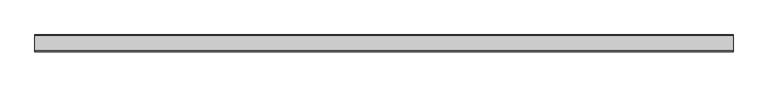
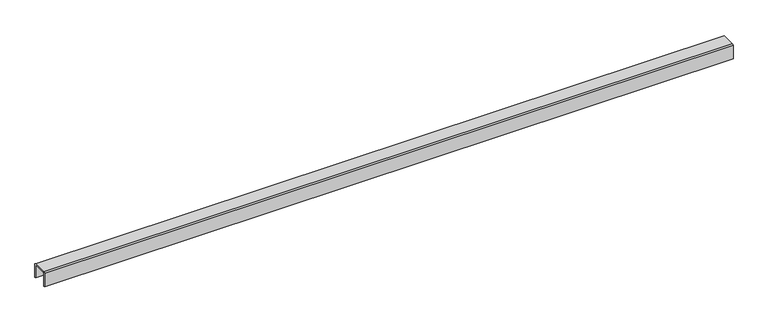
"""IFC4 building model written with IfcOpenShell, lengths in millimetres: proxy geometry, Beared-Hanger : BearedHanger."""

import ifcopenshell
import ifcopenshell.guid

model = None  # the IFC model being written
_history = None  # IfcOwnerHistory: only IFC2X3 demands one
_inside = {}  # id of a spatial element -> (the spatial element, [elements in it])
_under = {}  # id of a project, library or spatial element -> (it, [spatial elements below it])
_declared = {}  # id of a project -> (the project, [libraries it declares])
_typed = {}  # id of a type object -> (the type object, [elements of that type])
_made_of = {}  # id of a material, layer set ... -> (it, [elements and type objects made of it])


def new_model(schema):
    """Start an empty IFC model of exactly this schema.

    Asked for "IFC4X3", IfcOpenShell would pick the latest addendum, in which some entities
    have other attributes; the version numbers below select the first issue.
    IFC2X3 requires an IfcOwnerHistory on every rooted entity: one is made here for all.
    """
    global model, _history
    if schema == "IFC4X3":
        model = ifcopenshell.file(schema_version=(4, 3, 0, 0))
    else:
        model = ifcopenshell.file(schema=schema)
    _inside.clear()
    _under.clear()
    _declared.clear()
    _typed.clear()
    _made_of.clear()
    _history = None
    if model.schema == "IFC2X3":
        org = make("IfcOrganization", Name="unknown")
        user = make(
            "IfcPersonAndOrganization",
            ThePerson=make("IfcPerson", FamilyName="unknown"),
            TheOrganization=org,
        )
        app = make(
            "IfcApplication",
            ApplicationDeveloper=org,
            Version="unknown",
            ApplicationFullName="unknown",
            ApplicationIdentifier="unknown",
        )
        _history = make(
            "IfcOwnerHistory",
            OwningUser=user,
            OwningApplication=app,
            ChangeAction="ADDED",
            CreationDate=0,
        )
    return model


def make(cls, **values):
    """One entity of the class cls with the attributes given. An attribute that is None is left unset."""
    return model.create_entity(
        cls, **{name: value for name, value in values.items() if value is not None}
    )


def rooted(cls, **values):
    """An entity with a GlobalId (a new one), such as an element, a storey or a relation."""
    return make(cls, GlobalId=ifcopenshell.guid.new(), OwnerHistory=_history, **values)


def si_unit(unit_type, name, prefix=None):
    """IfcSIUnit, for example si_unit("LENGTHUNIT", "METRE", prefix="MILLI")."""
    return make("IfcSIUnit", UnitType=unit_type, Prefix=prefix, Name=name)


def assignment(units):
    """IfcUnitAssignment: the units of a project."""
    return None if units is None else make("IfcUnitAssignment", Units=units)


def point(xyz):
    """IfcCartesianPoint."""
    return None if xyz is None else make("IfcCartesianPoint", Coordinates=xyz)


def direction(xyz):
    """IfcDirection."""
    return None if xyz is None else make("IfcDirection", DirectionRatios=xyz)


def frame(location, z_axis=None, x_axis=None):
    """IfcAxis2Placement3D, a coordinate frame: its origin and axes. An axis left out is left unset."""
    return make(
        "IfcAxis2Placement3D",
        Location=point(location),
        Axis=direction(z_axis),
        RefDirection=direction(x_axis),
    )


def origin():
    """The frame at (0, 0, 0) with its axes left unset."""
    return frame((0.0, 0.0, 0.0))


def place(relative_to, where):
    """IfcLocalPlacement: puts the frame where relative to a parent placement (None: the world)."""
    return make(
        "IfcLocalPlacement", PlacementRelTo=relative_to, RelativePlacement=where
    )


def context(
    kind, dimensions, precision=None, world=None, true_north=None, identifier=None
):
    """IfcGeometricRepresentationContext, for example the 3D "Model" context."""
    return make(
        "IfcGeometricRepresentationContext",
        ContextIdentifier=identifier,
        ContextType=kind,
        CoordinateSpaceDimension=dimensions,
        Precision=precision,
        WorldCoordinateSystem=world,
        TrueNorth=true_north,
    )


def project(units=None, contexts=None):
    """IfcProject with its units and contexts."""
    return rooted(
        "IfcProject",
        Name="project",
        RepresentationContexts=contexts,
        UnitsInContext=assignment(units),
    )


def spatial(cls, under=None, at=None, **own):
    """A site, building, storey or space (cls), placed at a placement, below another one or the project."""
    s = rooted(cls, ObjectPlacement=at, **own)
    if under is not None:
        _under.setdefault(under.id(), (under, []))[1].append(s)
    return s


def polyline(points):
    """IfcPolyline through the points."""
    return make("IfcPolyline", Points=[point(p) for p in points])


def outline(outer, holes=None, kind="AREA"):
    """IfcArbitraryClosedProfileDef: a profile drawn as a closed curve; with holes, ...WithVoids."""
    if holes is None:
        return make("IfcArbitraryClosedProfileDef", ProfileType=kind, OuterCurve=outer)
    return make(
        "IfcArbitraryProfileDefWithVoids",
        ProfileType=kind,
        OuterCurve=outer,
        InnerCurves=holes,
    )


def extrude(swept, where, along, depth):
    """IfcExtrudedAreaSolid: the profile swept, set in the frame where, extruded along a direction by depth."""
    return make(
        "IfcExtrudedAreaSolid",
        SweptArea=swept,
        Position=where,
        ExtrudedDirection=direction(along),
        Depth=depth,
    )


def shape(context_of_items, identifier, shape_type, items):
    """IfcShapeRepresentation: the items that make up one representation, for example the "Body"."""
    return make(
        "IfcShapeRepresentation",
        ContextOfItems=context_of_items,
        RepresentationIdentifier=identifier,
        RepresentationType=shape_type,
        Items=items,
    )


def source(mapping_origin, context_of_items, identifier, shape_type, items):
    """IfcRepresentationMap: a shape defined once, which mapped items show again and again."""
    return make(
        "IfcRepresentationMap",
        MappingOrigin=mapping_origin,
        MappedRepresentation=shape(context_of_items, identifier, shape_type, items),
    )


def transform(
    local_origin,
    x_axis=None,
    y_axis=None,
    z_axis=None,
    scale=None,
    scale2=None,
    scale3=None,
    uniform=True,
):
    """IfcCartesianTransformationOperator3D, or its non-uniform kind. x_axis, y_axis, z_axis: its Axis1, 2, 3."""
    if uniform:
        return make(
            "IfcCartesianTransformationOperator3D",
            Axis1=direction(x_axis),
            Axis2=direction(y_axis),
            LocalOrigin=point(local_origin),
            Scale=scale,
            Axis3=direction(z_axis),
        )
    return make(
        "IfcCartesianTransformationOperator3DnonUniform",
        Axis1=direction(x_axis),
        Axis2=direction(y_axis),
        LocalOrigin=point(local_origin),
        Scale=scale,
        Axis3=direction(z_axis),
        Scale2=scale2,
        Scale3=scale3,
    )


def mapped(mapping_source, mapping_target):
    """IfcMappedItem: shows the shape of a source again, moved by a transform."""
    return make(
        "IfcMappedItem", MappingSource=mapping_source, MappingTarget=mapping_target
    )


def made_of(thing, what):
    """Note that an element or type object is made of a material, layer set ...; save() writes the relation."""
    if what is not None:
        _made_of.setdefault(what.id(), (what, []))[1].append(thing)
    return thing


def element(
    cls,
    number,
    at=None,
    inside=None,
    cuts=None,
    type_object=None,
    material=None,
    context=None,
    identifier="Body",
    shape_type=None,
    held_by="IfcProductDefinitionShape",
    body=None,
    shapes=None,
    **own,
):
    """One element of the class cls, such as IfcWall. Its Tag is "e" and its number.

    at: its placement. inside: the storey or other place that contains it. cuts: it is an
    opening in that element (IfcRelVoidsElement). A single representation is given by context,
    identifier, shape_type and body (its items); several are given by shapes. held_by: the class
    of the entity that holds the representations. save() writes the other relations.
    """
    e = rooted(cls, Tag="e%d" % number, ObjectPlacement=at, **own)
    if body is not None:
        shapes = [shape(context, identifier, shape_type, body)]
    if shapes is not None:
        e.Representation = make(held_by, Representations=shapes)
    if inside is not None:
        _inside.setdefault(inside.id(), (inside, []))[1].append(e)
    if cuts is not None:
        rooted(
            "IfcRelVoidsElement", RelatingBuildingElement=cuts, RelatedOpeningElement=e
        )
    if type_object is not None:
        _typed.setdefault(type_object.id(), (type_object, []))[1].append(e)
    return made_of(e, material)


def aggregate(whole, parts):
    """IfcRelAggregates: a whole, such as a stair, and the parts it consists of."""
    return rooted("IfcRelAggregates", RelatingObject=whole, RelatedObjects=parts)


def save(model, path):
    """Write the relations noted so far, then the file.

    IfcRelAggregates (storeys below a building ...), IfcRelContainedInSpatialStructure (elements
    in a storey), IfcRelDefinesByType, IfcRelAssociatesMaterial and IfcRelDeclares: one each for
    every whole, place, type object, material and project.
    """
    for whole, parts in _under.values():
        aggregate(whole, parts)
    for where, things in _inside.values():
        rooted(
            "IfcRelContainedInSpatialStructure",
            RelatedElements=things,
            RelatingStructure=where,
        )
    for kind, things in _typed.values():
        rooted("IfcRelDefinesByType", RelatedObjects=things, RelatingType=kind)
    for what, things in _made_of.values():
        rooted("IfcRelAssociatesMaterial", RelatedObjects=things, RelatingMaterial=what)
    for by, libraries in _declared.values():
        rooted("IfcRelDeclares", RelatingContext=by, RelatedDefinitions=libraries)
    model.write(path)


def mechanical_equipment_34a0f5c0(model_context):
    return source(origin(), model_context, "Body", "SweptSolid", [
        extrude(outline(polyline([(-17.8259277, -789.5428993), (17.1740723, -789.5428993), (19.6740723, -792.0425941), (19.6740723, -825.9583046), (16.7883301, -825.9583046), (16.7883301, -792.5427772), (-17.3962402, -792.5427772), (-17.3962402, -825.9583046), (-20.3259277, -825.9583046), (-20.3259277, -792.0425941), (-17.8259277, -789.5428993)])), frame((-825.5697632, 0.0, 0.0), z_axis=(1.0, 0.0, 0.0), x_axis=(0.0, 1.0, 0.0)), (0.0, 0.0, 1.0), 1651.1395264),
    ])


if __name__ == "__main__":
    model = new_model("IFC4")
    model_context = context("Model", 3, world=origin())
    ifc_project = project(units=[si_unit("LENGTHUNIT", "METRE", prefix="MILLI")], contexts=[model_context])
    site = spatial("IfcSite", under=ifc_project)
    building = spatial("IfcBuilding", under=site)
    placement = place(None, origin())
    mechanical_equipment_shape = mechanical_equipment_34a0f5c0(model_context)
    element("IfcBuildingElementProxy", 1, Name="Beared-Hanger : BearedHanger", ObjectType="Beared-Hanger : BearedHanger", at=placement, inside=building, context=model_context, shape_type="MappedRepresentation", body=[
        mapped(mechanical_equipment_shape, transform((0.0, 0.0, 0.0), x_axis=(1.0, 0.0, 0.0), y_axis=(0.0, 1.0, 0.0), z_axis=(0.0, 0.0, 1.0))),
    ])
    save(model, "model.ifc")
